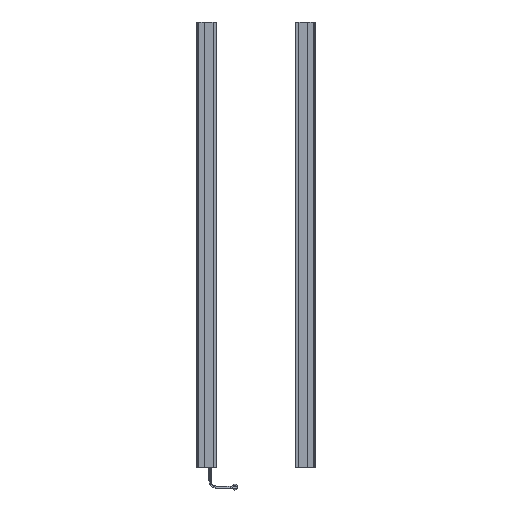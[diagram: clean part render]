
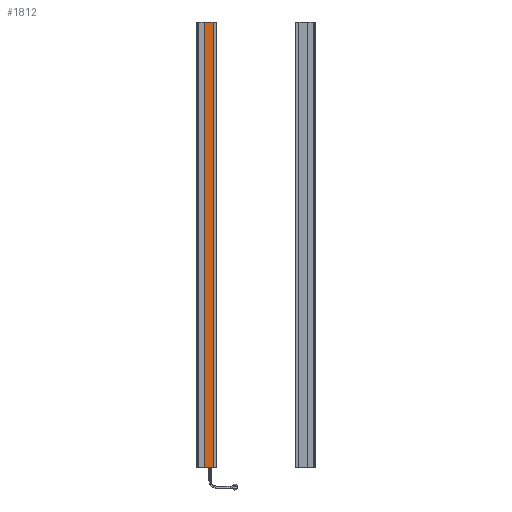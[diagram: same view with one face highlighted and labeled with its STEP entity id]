
A CAD part, front view. The second image highlights one B-rep face of the part: STEP entity #1812.
In plain terms, the highlighted planar face has unit normal (0, -1, 0).
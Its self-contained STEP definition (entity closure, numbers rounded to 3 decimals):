
#186 = ORIENTED_EDGE ( 'NONE', *, *, #709, .T. ) ;
#187 = ORIENTED_EDGE ( 'NONE', *, *, #827, .F. ) ;
#188 = ORIENTED_EDGE ( 'NONE', *, *, #797, .F. ) ;
#189 = ORIENTED_EDGE ( 'NONE', *, *, #804, .T. ) ;
#709 = EDGE_CURVE ( 'NONE', #2994, #2993, #1612, .T. ) ;
#797 = EDGE_CURVE ( 'NONE', #2959, #2960, #1920, .T. ) ;
#804 = EDGE_CURVE ( 'NONE', #2959, #2994, #1934, .T. ) ;
#827 = EDGE_CURVE ( 'NONE', #2960, #2993, #1974, .T. ) ;
#1021 = AXIS2_PLACEMENT_3D ( 'NONE', #4007, #4013, #4014 ) ;
#1277 = EDGE_LOOP ( 'NONE', ( #186, #187, #188, #189 ) ) ;
#1612 = LINE ( 'NONE', #3384, #1628 ) ;
#1628 = VECTOR ( 'NONE', #3387, 1000. ) ;
#1812 = ADVANCED_FACE ( 'NONE', ( #2244 ), #4004, .F. ) ;
#1920 = LINE ( 'NONE', #3576, #1921 ) ;
#1921 = VECTOR ( 'NONE', #3577, 1000. ) ;
#1934 = LINE ( 'NONE', #3590, #1935 ) ;
#1935 = VECTOR ( 'NONE', #3591, 1000. ) ;
#1974 = LINE ( 'NONE', #3641, #1975 ) ;
#1975 = VECTOR ( 'NONE', #3642, 1000. ) ;
#2244 = FACE_OUTER_BOUND ( 'NONE', #1277, .T. ) ;
#2703 = CARTESIAN_POINT ( 'NONE',  ( -76., -3., 653. ) ) ;
#2704 = CARTESIAN_POINT ( 'NONE',  ( -63., -3., 653. ) ) ;
#2737 = CARTESIAN_POINT ( 'NONE',  ( -63., -3., 0. ) ) ;
#2738 = CARTESIAN_POINT ( 'NONE',  ( -76., -3., 0. ) ) ;
#2959 = VERTEX_POINT ( 'NONE', #2703 ) ;
#2960 = VERTEX_POINT ( 'NONE', #2704 ) ;
#2993 = VERTEX_POINT ( 'NONE', #2737 ) ;
#2994 = VERTEX_POINT ( 'NONE', #2738 ) ;
#3384 = CARTESIAN_POINT ( 'NONE',  ( -76., -3., 0. ) ) ;
#3387 = DIRECTION ( 'NONE',  ( 1., 0., 0. ) ) ;
#3576 = CARTESIAN_POINT ( 'NONE',  ( -76., -3., 653. ) ) ;
#3577 = DIRECTION ( 'NONE',  ( 1., 0., 0. ) ) ;
#3590 = CARTESIAN_POINT ( 'NONE',  ( -76., -3., 653. ) ) ;
#3591 = DIRECTION ( 'NONE',  ( 0., 0., -1. ) ) ;
#3641 = CARTESIAN_POINT ( 'NONE',  ( -63., -3., 653. ) ) ;
#3642 = DIRECTION ( 'NONE',  ( 0., 0., -1. ) ) ;
#4004 = PLANE ( 'NONE',  #1021 ) ;
#4007 = CARTESIAN_POINT ( 'NONE',  ( -76., -3., 653. ) ) ;
#4013 = DIRECTION ( 'NONE',  ( 0., 1., 0. ) ) ;
#4014 = DIRECTION ( 'NONE',  ( -1., 0., 0. ) ) ;
